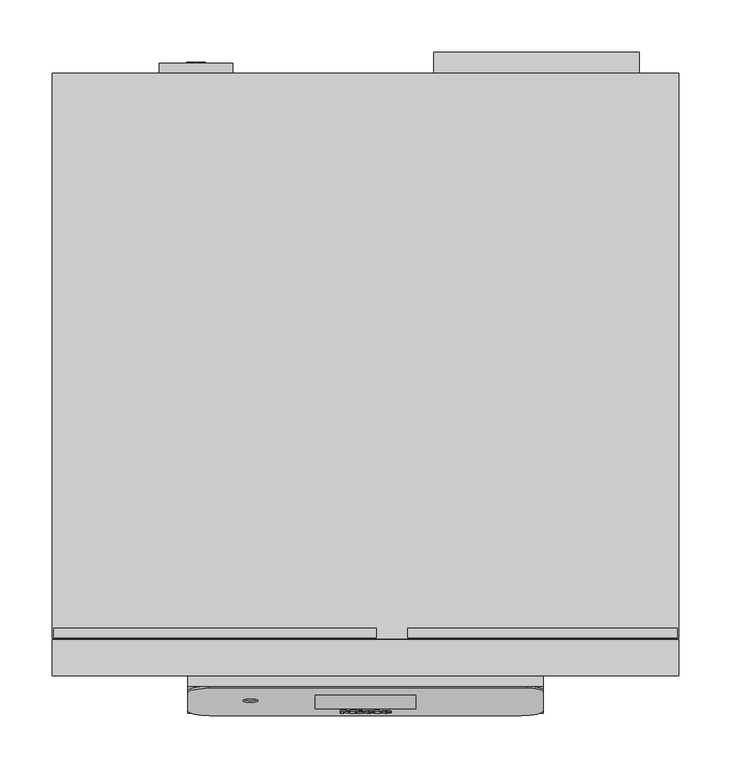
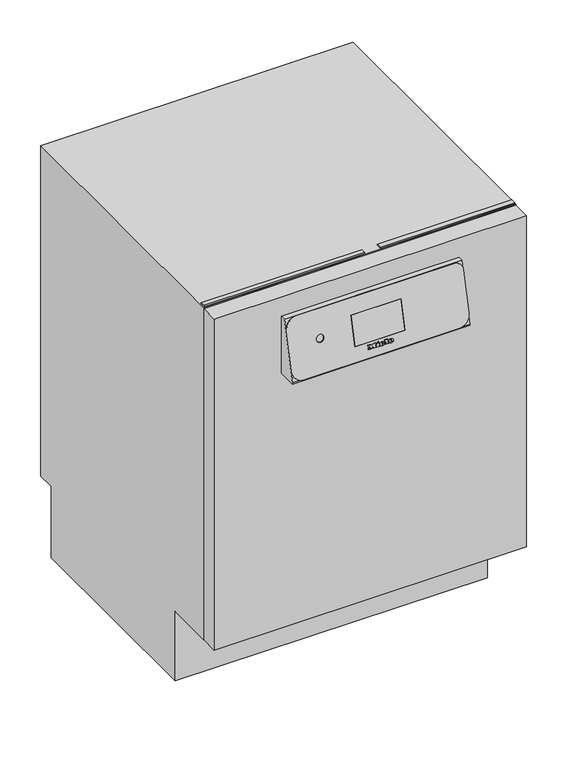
"""IFC4 building model written with IfcOpenShell, lengths in millimetres: proxy geometry, 12066500_SEE_PFD407UDOS_SST : 61040785_SEE_12066500_PFD407UDOS_SST."""

from ifc_helpers import new_model, si_unit, point, frame, frame_2d, origin, origin_with_axes, place, context, project, spatial, polyline, circle_curve, ellipse_curve, trimmed, segment, composite_curve, outline, extrude, source, transform, mapped, element, save
from ifc_brep_helpers import plane_surface, cylinder_surface, revolved_surface, extruded_surface, advanced_brep


def specialty_equipment_e1880b62(model_context):
    return source(origin(), model_context, "Body", "SolidModel", [
        advanced_brep(
        [(19.2098411, -35.3170778, 679.7116041), (19.2098411, -35.1353173, 680.4988951), (24.5618411, -35.1353173, 680.4988951), (15.2498411, -35.1353173, 680.4988951), (17.4498411, -35.743585, 677.8641985), (24.4258411, -35.3170778, 679.7116041), (22.0098411, -35.3170778, 679.7116041), (20.1058411, -35.5186339, 678.8385685), (19.2098411, -34.9049675, 681.4966501), (19.2098411, -34.7088101, 682.3463008), (20.5778411, -34.7088101, 682.3463008), (20.5778411, -34.9049675, 681.4966501), (19.2098411, -34.3427077, 679.4866531), (20.1058411, -34.5442639, 678.6136175), (22.0098411, -34.3427077, 679.4866531), (24.4258411, -34.3427077, 679.4866531), (17.4498411, -34.7692149, 677.6392474), (15.2498411, -34.1609473, 680.2739441), (24.5618411, -34.1609473, 680.2739441), (19.2098411, -34.1609473, 680.2739441), (19.2098411, -33.9305974, 681.271699), (20.5778411, -33.9305974, 681.271699), (20.5778411, -33.7344401, 682.1213497), (19.2098411, -33.7344401, 682.1213497)],
        [
            (0, 1),
            (1, 2),
            (2, 3, ellipse_curve(frame((19.9058411, -35.1353173, 680.4988951), z_axis=(0.0, -0.9743700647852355, 0.22495105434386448), x_axis=(-1.0, 0.0, 0.0)), 4.656, 3.848)),
            (3, 4, circle_curve(frame((18.3458847, -35.0741307, 680.7639238), z_axis=(0.0, -0.9743700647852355, 0.22495105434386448), x_axis=(0.0, -0.22495105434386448, -0.9743700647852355)), 3.1079688)),
            (4, 5, circle_curve(frame((19.8126347, -34.599034, 682.8217934), z_axis=(0.0, -0.9743700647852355, 0.22495105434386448), x_axis=(0.0, -0.22495105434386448, -0.9743700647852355)), 5.6098607)),
            (5, 6),
            (6, 7, circle_curve(frame((20.4968999, -35.1497142, 680.4365354), z_axis=(0.0, 0.9743700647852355, -0.22495105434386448), x_axis=(0.0, -0.22495105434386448, -0.9743700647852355)), 1.6859795)),
            (7, 0, circle_curve(frame((20.1058411, -35.3170778, 679.7116041), z_axis=(0.0, 0.9743700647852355, -0.22495105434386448), x_axis=(0.0, -0.22495105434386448, -0.9743700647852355)), 0.896)),
            (8, 9),
            (9, 10, circle_curve(frame((19.8938411, -34.7088101, 682.3463008), z_axis=(0.0, 0.9743700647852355, -0.22495105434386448), x_axis=(0.0, -0.22495105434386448, -0.9743700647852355)), 0.684)),
            (10, 11),
            (11, 8),
            (12, 13, circle_curve(frame((20.1058411, -34.3427077, 679.4866531), z_axis=(0.0, -0.9743700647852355, 0.22495105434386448), x_axis=(0.0, -0.22495105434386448, -0.9743700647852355)), 0.896)),
            (13, 14, circle_curve(frame((20.4968999, -34.1753441, 680.2115844), z_axis=(0.0, -0.9743700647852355, 0.22495105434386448), x_axis=(0.0, -0.22495105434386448, -0.9743700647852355)), 1.6859795)),
            (14, 15),
            (15, 16, circle_curve(frame((19.8126347, -33.624664, 682.5968423), z_axis=(0.0, 0.9743700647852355, -0.22495105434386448), x_axis=(0.0, -0.22495105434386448, -0.9743700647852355)), 5.6098607)),
            (16, 17, circle_curve(frame((18.3458847, -34.0997606, 680.5389727), z_axis=(0.0, 0.9743700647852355, -0.22495105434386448), x_axis=(0.0, -0.22495105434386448, -0.9743700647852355)), 3.1079688)),
            (17, 18, ellipse_curve(frame((19.9058411, -34.1609473, 680.2739441), z_axis=(0.0, 0.9743700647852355, -0.22495105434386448), x_axis=(-1.0, 0.0, 0.0)), 4.656, 3.848)),
            (18, 19),
            (19, 12),
            (20, 21),
            (21, 22),
            (22, 23, circle_curve(frame((19.8938411, -33.7344401, 682.1213497), z_axis=(0.0, -0.9743700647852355, 0.22495105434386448), x_axis=(0.0, -0.22495105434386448, -0.9743700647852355)), 0.684)),
            (23, 20),
            (0, 12),
            (19, 1),
            (18, 2),
            (5, 15),
            (14, 6),
            (17, 3),
            (13, 7),
            (16, 4),
            (8, 20),
            (23, 9),
            (22, 10),
            (21, 11),
        ],
        [
            plane_surface(frame((19.2098411, -35.1353173, 680.4988951), z_axis=(0.0, -0.9743700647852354, 0.22495105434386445), x_axis=(0.0, 0.22495105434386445, 0.9743700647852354))),
            plane_surface(frame((19.2098411, -34.1609473, 680.2739441), z_axis=(0.0, 0.9743700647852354, -0.22495105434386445), x_axis=(0.0, -0.22495105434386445, -0.9743700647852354))),
            plane_surface(frame((19.2098411, -35.3170778, 679.7116041), z_axis=(1.0, 0.0, 0.0), x_axis=(0.0, 0.9743700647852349, -0.22495105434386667))),
            plane_surface(frame((19.2098411, -35.1353173, 680.4988951), z_axis=(0.0, -0.22495105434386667, -0.9743700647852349), x_axis=(0.0, 0.9743700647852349, -0.22495105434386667))),
            plane_surface(frame((24.4258411, -35.3170778, 679.7116041), z_axis=(0.0, 0.22495105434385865, 0.9743700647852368), x_axis=(0.0, 0.9743700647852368, -0.22495105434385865))),
            extruded_surface(trimmed(ellipse_curve(frame((19.9058411, -33.1865772, 680.048993), z_axis=(0.0, -0.9743700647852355, 0.22495105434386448), x_axis=(-1.0, 0.0, 0.0)), 4.656, 3.848), [point((24.5618411, -33.1865772, 680.048993))], [point((15.2498411, -33.1865772, 680.048993))], True, "CARTESIAN"), (0.0, -0.9743700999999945, 0.2249510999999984), 1.0000000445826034),
            revolved_surface(polyline([(20.4968999, -34.55460696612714, 678.5688164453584), (20.4968999, -35.52897707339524, 678.7937675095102)]), (20.4968999, -34.1753441, 680.2115844), (0.0, 0.9743700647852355, -0.22495105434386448)),
            revolved_surface(polyline([(20.1058411, -34.544263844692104, 678.6136175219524), (20.1058411, -35.51863393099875, 678.8385685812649)]), (20.1058411, -34.3427077, 679.4866531), (0.0, 0.9743700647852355, -0.22495105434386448)),
            cylinder_surface(frame((18.3458847, -34.0997606, 680.5389727), z_axis=(0.0, -0.9743700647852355, 0.22495105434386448), x_axis=(0.0, -0.22495105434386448, -0.9743700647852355)), 3.1079688),
            cylinder_surface(frame((19.8126347, -33.624664, 682.5968423), z_axis=(0.0, -0.9743700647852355, 0.22495105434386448), x_axis=(0.0, -0.22495105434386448, -0.9743700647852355)), 5.6098607),
            plane_surface(frame((19.2098411, -34.9049675, 681.4966501), z_axis=(1.0, 0.0, 0.0), x_axis=(0.0, 0.9743700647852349, -0.22495105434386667))),
            revolved_surface(polyline([(19.8938411, -33.8883066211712, 681.4548805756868), (19.8938411, -34.8626766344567, 681.6798316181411)]), (19.8938411, -33.7344401, 682.1213497), (0.0, 0.9743700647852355, -0.22495105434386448)),
            plane_surface(frame((20.5778411, -34.7088101, 682.3463008), z_axis=(-1.0, 0.0, 0.0), x_axis=(0.0, 0.9743700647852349, -0.22495105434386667))),
            plane_surface(frame((20.5778411, -34.9049675, 681.4966501), z_axis=(0.0, 0.22495105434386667, 0.9743700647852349), x_axis=(0.0, 0.9743700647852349, -0.22495105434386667))),
        ],
        [
            (0, [[1, 2, 3, 4, 5, 6, 7, 8], [9, 10, 11, 12]]),
            (1, [[13, 14, 15, 16, 17, 18, 19, 20], [21, 22, 23, 24]]),
            (2, [[-1, 25, -20, 26]]),
            (3, [[-2, -26, -19, 27]]),
            (4, [[-6, 28, -15, 29]]),
            (5, [[-3, -27, -18, 30]]),
            (6, [[-7, -29, -14, 31]]),
            (7, [[-8, -31, -13, -25]]),
            (8, [[-4, -30, -17, 32]]),
            (9, [[-5, -32, -16, -28]]),
            (10, [[-9, 33, -24, 34]]),
            (11, [[-10, -34, -23, 35]]),
            (12, [[-11, -35, -22, 36]]),
            (13, [[-12, -36, -21, -33]]),
        ],
    ),
        advanced_brep(
        [(2.5138411, -35.3170778, 679.7116041), (2.5138411, -35.1353173, 680.4988951), (7.8658411, -35.1353173, 680.4988951), (-1.4461589, -35.1353173, 680.4988951), (0.7538411, -35.743585, 677.8641985), (7.7298411, -35.3170778, 679.7116041), (5.3138411, -35.3170778, 679.7116041), (3.4098411, -35.5186339, 678.8385685), (2.5138411, -34.9049675, 681.4966501), (2.5138411, -34.7088101, 682.3463008), (3.8818411, -34.7088101, 682.3463008), (3.8818411, -34.9049675, 681.4966501), (2.5138411, -34.3427077, 679.4866531), (3.4098411, -34.5442639, 678.6136175), (5.3138411, -34.3427077, 679.4866531), (7.7298411, -34.3427077, 679.4866531), (0.7538411, -34.7692149, 677.6392474), (-1.4461589, -34.1609473, 680.2739441), (7.8658411, -34.1609473, 680.2739441), (2.5138411, -34.1609473, 680.2739441), (2.5138411, -33.9305974, 681.271699), (3.8818411, -33.9305974, 681.271699), (3.8818411, -33.7344401, 682.1213497), (2.5138411, -33.7344401, 682.1213497)],
        [
            (0, 1),
            (1, 2),
            (2, 3, ellipse_curve(frame((3.2098411, -35.1353173, 680.4988951), z_axis=(0.0, -0.9743700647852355, 0.22495105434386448), x_axis=(-1.0, 0.0, 0.0)), 4.656, 3.848)),
            (3, 4, circle_curve(frame((1.6498847, -35.0741307, 680.7639238), z_axis=(0.0, -0.9743700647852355, 0.22495105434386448), x_axis=(0.0, -0.22495105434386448, -0.9743700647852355)), 3.1079688)),
            (4, 5, circle_curve(frame((3.1166347, -34.599034, 682.8217934), z_axis=(0.0, -0.9743700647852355, 0.22495105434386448), x_axis=(0.0, -0.22495105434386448, -0.9743700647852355)), 5.6098607)),
            (5, 6),
            (6, 7, circle_curve(frame((3.8008999, -35.1497142, 680.4365354), z_axis=(0.0, 0.9743700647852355, -0.22495105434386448), x_axis=(0.0, -0.22495105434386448, -0.9743700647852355)), 1.6859795)),
            (7, 0, circle_curve(frame((3.4098411, -35.3170778, 679.7116041), z_axis=(0.0, 0.9743700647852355, -0.22495105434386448), x_axis=(0.0, -0.22495105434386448, -0.9743700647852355)), 0.896)),
            (8, 9),
            (9, 10, circle_curve(frame((3.1978411, -34.7088101, 682.3463008), z_axis=(0.0, 0.9743700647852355, -0.22495105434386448), x_axis=(0.0, -0.22495105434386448, -0.9743700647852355)), 0.684)),
            (10, 11),
            (11, 8),
            (12, 13, circle_curve(frame((3.4098411, -34.3427077, 679.4866531), z_axis=(0.0, -0.9743700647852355, 0.22495105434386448), x_axis=(0.0, -0.22495105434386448, -0.9743700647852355)), 0.896)),
            (13, 14, circle_curve(frame((3.8008999, -34.1753441, 680.2115844), z_axis=(0.0, -0.9743700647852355, 0.22495105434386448), x_axis=(0.0, -0.22495105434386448, -0.9743700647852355)), 1.6859795)),
            (14, 15),
            (15, 16, circle_curve(frame((3.1166347, -33.624664, 682.5968423), z_axis=(0.0, 0.9743700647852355, -0.22495105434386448), x_axis=(0.0, -0.22495105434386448, -0.9743700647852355)), 5.6098607)),
            (16, 17, circle_curve(frame((1.6498847, -34.0997606, 680.5389727), z_axis=(0.0, 0.9743700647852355, -0.22495105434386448), x_axis=(0.0, -0.22495105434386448, -0.9743700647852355)), 3.1079688)),
            (17, 18, ellipse_curve(frame((3.2098411, -34.1609473, 680.2739441), z_axis=(0.0, 0.9743700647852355, -0.22495105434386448), x_axis=(-1.0, 0.0, 0.0)), 4.656, 3.848)),
            (18, 19),
            (19, 12),
            (20, 21),
            (21, 22),
            (22, 23, circle_curve(frame((3.1978411, -33.7344401, 682.1213497), z_axis=(0.0, -0.9743700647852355, 0.22495105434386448), x_axis=(0.0, -0.22495105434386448, -0.9743700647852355)), 0.684)),
            (23, 20),
            (0, 12),
            (19, 1),
            (18, 2),
            (5, 15),
            (14, 6),
            (17, 3),
            (13, 7),
            (16, 4),
            (8, 20),
            (23, 9),
            (22, 10),
            (21, 11),
        ],
        [
            plane_surface(frame((2.5138411, -35.1353173, 680.4988951), z_axis=(0.0, -0.9743700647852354, 0.22495105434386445), x_axis=(0.0, 0.22495105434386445, 0.9743700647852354))),
            plane_surface(frame((2.5138411, -34.1609473, 680.2739441), z_axis=(0.0, 0.9743700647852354, -0.22495105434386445), x_axis=(0.0, -0.22495105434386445, -0.9743700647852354))),
            plane_surface(frame((2.5138411, -35.3170778, 679.7116041), z_axis=(1.0000000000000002, 0.0, 0.0), x_axis=(0.0, 0.9743700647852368, -0.22495105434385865))),
            plane_surface(frame((2.5138411, -35.1353173, 680.4988951), z_axis=(0.0, -0.22495105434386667, -0.9743700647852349), x_axis=(0.0, 0.9743700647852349, -0.22495105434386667))),
            plane_surface(frame((7.7298411, -35.3170778, 679.7116041), z_axis=(0.0, 0.22495105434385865, 0.9743700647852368), x_axis=(0.0, 0.9743700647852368, -0.22495105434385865))),
            extruded_surface(trimmed(ellipse_curve(frame((3.2098411, -33.1865772, 680.048993), z_axis=(0.0, -0.9743700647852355, 0.22495105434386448), x_axis=(-1.0, 0.0, 0.0)), 4.656, 3.848), [point((7.8658411, -33.1865772, 680.048993))], [point((-1.4461589, -33.1865772, 680.048993))], True, "CARTESIAN"), (0.0, -0.9743700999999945, 0.2249510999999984), 1.0000000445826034),
            revolved_surface(polyline([(3.8008999, -34.55460696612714, 678.5688164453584), (3.8008999, -35.52897707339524, 678.7937675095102)]), (3.8008999, -34.1753441, 680.2115844), (0.0, 0.9743700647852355, -0.22495105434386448)),
            revolved_surface(polyline([(3.4098411, -34.544263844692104, 678.6136175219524), (3.4098411, -35.51863393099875, 678.8385685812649)]), (3.4098411, -34.3427077, 679.4866531), (0.0, 0.9743700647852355, -0.22495105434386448)),
            cylinder_surface(frame((1.6498847, -34.0997606, 680.5389727), z_axis=(0.0, -0.9743700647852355, 0.22495105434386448), x_axis=(0.0, -0.22495105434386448, -0.9743700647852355)), 3.1079688),
            cylinder_surface(frame((3.1166347, -33.624664, 682.5968423), z_axis=(0.0, -0.9743700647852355, 0.22495105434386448), x_axis=(0.0, -0.22495105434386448, -0.9743700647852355)), 5.6098607),
            plane_surface(frame((2.5138411, -34.9049675, 681.4966501), z_axis=(1.0, 0.0, 0.0), x_axis=(0.0, 0.9743700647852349, -0.22495105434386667))),
            revolved_surface(polyline([(3.1978411, -33.8883066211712, 681.4548805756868), (3.1978411, -34.8626766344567, 681.6798316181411)]), (3.1978411, -33.7344401, 682.1213497), (0.0, 0.9743700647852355, -0.22495105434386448)),
            plane_surface(frame((3.8818411, -34.7088101, 682.3463008), z_axis=(-1.0, 0.0, 0.0), x_axis=(0.0, 0.9743700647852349, -0.22495105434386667))),
            plane_surface(frame((3.8818411, -34.9049675, 681.4966501), z_axis=(0.0, 0.22495105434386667, 0.9743700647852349), x_axis=(0.0, 0.9743700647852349, -0.22495105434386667))),
        ],
        [
            (0, [[1, 2, 3, 4, 5, 6, 7, 8], [9, 10, 11, 12]]),
            (1, [[13, 14, 15, 16, 17, 18, 19, 20], [21, 22, 23, 24]]),
            (2, [[-1, 25, -20, 26]]),
            (3, [[-2, -26, -19, 27]]),
            (4, [[-6, 28, -15, 29]]),
            (5, [[-3, -27, -18, 30]]),
            (6, [[-7, -29, -14, 31]]),
            (7, [[-8, -31, -13, -25]]),
            (8, [[-4, -30, -17, 32]]),
            (9, [[-5, -32, -16, -28]]),
            (10, [[-9, 33, -24, 34]]),
            (11, [[-10, -34, -23, 35]]),
            (12, [[-11, -35, -22, 36]]),
            (13, [[-12, -36, -21, -33]]),
        ],
    ),
        extrude(outline(polyline([(0.0, 0.0), (-0.0109087, -2.9993294), (-1.4390415, -2.9920868), (-1.4315307, 0.0), (0.0, 0.0)])), frame((-6.2301589, -33.0757834, 684.9743053), z_axis=(0.0, -0.9743700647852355, 0.2249510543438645), x_axis=(-0.42472021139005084, 0.20365373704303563, 0.8821212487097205)), (0.0, 0.0, 1.0), 1.0),
        extrude(outline(polyline([(-0.4933908, 2.4141097), (-2.7800844, -2.4601583), (-7.0459742, -0.4588767), (-7.4401146, -1.2990179), (-8.6568709, -0.728194), (-5.9760369, 4.9862153), (-4.7592806, 4.4153913), (-5.1636142, 3.5535222), (-2.1941493, 2.16044), (-1.7898157, 3.022309), (-0.4933908, 2.4141097)])), frame((-6.2301589, -33.0757834, 684.9743053), z_axis=(0.0, -0.9743700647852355, 0.2249510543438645), x_axis=(-0.42472021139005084, 0.20365373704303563, 0.8821212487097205)), (0.0, 0.0, 1.0), 1.0),
        extrude(outline(polyline([(0.0, 0.0), (0.0, -1.3039999), (-5.504, -1.3039999), (-5.504, 5.352), (-6.488, 5.352), (-6.488, 6.696), (0.0, 6.696), (0.0, 5.352), (-0.96, 5.352), (-0.96, 0.0), (0.0, 0.0)])), frame((8.3138411, -33.2629427, 684.1636294), z_axis=(0.0, -0.9743700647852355, 0.22495105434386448), x_axis=(-1.0, 0.0, 0.0)), (0.0, 0.0, 1.0), 1.0),
        extrude(outline(polyline([(0.0, 0.0), (0.0, -1.3039999), (-5.576, -1.3039999), (-7.92, 1.6960001), (-10.256, -1.3039999), (-15.128, -1.3039999), (-15.128, 0.0), (-14.112, 0.0), (-14.112, 5.352), (-15.128, 5.352), (-15.128, 6.696), (-8.744, 6.696), (-8.744, 5.352), (-9.728, 5.352), (-9.728, 1.8807777), (-6.136, 6.696), (-2.56, 1.9488752), (-2.56, 5.352), (-3.52, 5.352), (-3.52, 6.696), (0.0, 6.696), (0.0, 5.352), (-0.968, 5.352), (-0.968, 0.0), (0.0, 0.0)])), frame((-24.1501589, -33.2629427, 684.1636294), z_axis=(0.0, -0.9743700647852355, 0.22495105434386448), x_axis=(-1.0, 0.0, 0.0)), (0.0, 0.0, 1.0), 1.0),
        extrude(outline(polyline([(-0.1038681, 775.5857792), (-0.1038681, 660.0), (-36.1981904, 660.0), (-36.1981904, 662.5588517), (-10.1038681, 775.5857792), (-0.1038681, 775.5857792)])), frame((-169.8831565, 0.0, 0.0), z_axis=(1.0, 0.0, 0.0), x_axis=(0.0, 1.0, 0.0)), (0.0, 0.0, 1.0), 339.766313),
        extrude(outline(polyline([(299.0, 34.0), (299.0, 0.0), (-299.0, 0.0), (-299.0, 34.0), (299.0, 34.0)])), frame((0.0, 0.0, 145.0), z_axis=(0.0, 0.0, 1.0), x_axis=(1.0, 0.0, 0.0)), (0.0, 0.0, 1.0), 670.0),
        advanced_brep(
        [(153.3281651, -12.0526082, 776.0356813), (-148.8831565, -12.0526082, 776.0356813), (-169.8831565, -16.7765804, 755.57391), (-169.8831565, -33.4229584, 683.4705252), (-148.8831565, -38.1469305, 663.0087538), (148.8831565, -38.1469305, 663.0087538), (169.8831565, -33.4229584, 683.4705252), (169.8831565, -15.776671, 759.9049933), (-102.8831565, -24.0088923, 724.2473253), (-116.8831565, -24.0088923, 724.2473253), (48.0, -18.9868916, 746.0), (48.0, -31.9155103, 690.0), (-48.0, -31.9155103, 690.0), (-48.0, -18.9868916, 746.0), (153.3281651, -10.1038681, 775.5857792), (169.8831565, -13.8279308, 759.4550912), (169.8831565, -31.4742182, 683.0206231), (148.8831565, -36.1981904, 662.5588517), (-148.8831565, -36.1981904, 662.5588517), (-169.8831565, -31.4742182, 683.0206231), (-169.8831565, -14.8278402, 755.1240079), (-148.8831565, -10.1038681, 775.5857792), (48.0, -29.8629021, 690.0), (48.0, -16.9342834, 746.0), (-48.0, -16.9342834, 746.0), (-48.0, -29.8629021, 690.0), (-116.8831565, -22.4281396, 723.8823798), (-102.8831565, -22.4281396, 723.8823798)],
        [
            (0, 1),
            (1, 2, circle_curve(frame((-148.8831565, -16.7765804, 755.57391), z_axis=(0.0, -0.9743700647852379, 0.22495105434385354), x_axis=(1.0, 0.0, 0.0)), 21.0)),
            (2, 3),
            (3, 4, circle_curve(frame((-148.8831565, -33.4229584, 683.4705252), z_axis=(0.0, -0.9743700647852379, 0.22495105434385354), x_axis=(1.0, 0.0, 0.0)), 21.0)),
            (4, 5),
            (5, 6, circle_curve(frame((148.8831565, -33.4229584, 683.4705252), z_axis=(0.0, -0.9743700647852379, 0.22495105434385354), x_axis=(1.0, 0.0, 0.0)), 21.0)),
            (6, 7),
            (7, 0, circle_curve(frame((153.3281651, -15.776671, 759.9049933), z_axis=(0.0, -0.9743700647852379, 0.22495105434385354), x_axis=(1.0, 0.0, 0.0)), 16.5549913)),
            (8, 9, circle_curve(frame((-109.8831565, -24.0088923, 724.2473253), z_axis=(0.0, 0.9743700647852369, -0.22495105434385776), x_axis=(1.0, 0.0, 0.0)), 7.0)),
            (9, 8, circle_curve(frame((-109.8831565, -24.0088923, 724.2473253), z_axis=(0.0, 0.9743700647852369, -0.22495105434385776), x_axis=(1.0, 0.0, 0.0)), 7.0)),
            (10, 11),
            (11, 12),
            (12, 13),
            (13, 10),
            (14, 15, circle_curve(frame((153.3281651, -13.8279308, 759.4550912), z_axis=(0.0, 0.9743700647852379, -0.22495105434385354), x_axis=(1.0, 0.0, 0.0)), 16.5549913)),
            (15, 16),
            (16, 17, circle_curve(frame((148.8831565, -31.4742182, 683.0206231), z_axis=(0.0, 0.9743700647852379, -0.22495105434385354), x_axis=(1.0, 0.0, 0.0)), 21.0)),
            (17, 18),
            (18, 19, circle_curve(frame((-148.8831565, -31.4742182, 683.0206231), z_axis=(0.0, 0.9743700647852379, -0.22495105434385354), x_axis=(1.0, 0.0, 0.0)), 21.0)),
            (19, 20),
            (20, 21, circle_curve(frame((-148.8831565, -14.8278402, 755.1240079), z_axis=(0.0, 0.9743700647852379, -0.22495105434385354), x_axis=(1.0, 0.0, 0.0)), 21.0)),
            (21, 14),
            (22, 23),
            (23, 24),
            (24, 25),
            (25, 22),
            (0, 14),
            (21, 1),
            (20, 2),
            (19, 3),
            (18, 4),
            (17, 5),
            (16, 6),
            (15, 7),
            (26, 27, circle_curve(frame((-109.8831565, -22.4281396, 723.8823798), z_axis=(0.0, -0.9743700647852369, 0.22495105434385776), x_axis=(1.0, 0.0, 0.0)), 7.0)),
            (27, 26, circle_curve(frame((-109.8831565, -22.4281396, 723.8823798), z_axis=(0.0, -0.9743700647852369, 0.22495105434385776), x_axis=(1.0, 0.0, 0.0)), 7.0)),
            (26, 9),
            (8, 27),
            (12, 25),
            (24, 13),
            (10, 23),
            (22, 11),
        ],
        [
            plane_surface(frame((-166.8819453, -12.0526082, 776.0356813), z_axis=(0.0, -0.9743700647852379, 0.22495105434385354), x_axis=(-1.0, 0.0, 0.0))),
            plane_surface(frame((-166.8819453, -10.1038681, 775.5857792), z_axis=(0.0, 0.9743700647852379, -0.22495105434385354), x_axis=(1.0, 0.0, 0.0))),
            plane_surface(frame((153.3281651, -12.0526082, 776.0356813), z_axis=(0.0, 0.22495105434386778, 0.9743700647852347), x_axis=(0.0, 0.9743700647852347, -0.22495105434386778))),
            cylinder_surface(frame((-148.8831565, -14.8278402, 755.1240079), z_axis=(0.0, -0.9743700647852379, 0.22495105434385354), x_axis=(1.0, 0.0, 0.0)), 21.0),
            plane_surface(frame((-169.8831565, -16.7765804, 755.57391), z_axis=(-1.0, 0.0, 0.0), x_axis=(0.0, 0.9743700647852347, -0.22495105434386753))),
            cylinder_surface(frame((-148.8831565, -31.4742182, 683.0206231), z_axis=(0.0, -0.9743700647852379, 0.22495105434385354), x_axis=(1.0, 0.0, 0.0)), 21.0),
            plane_surface(frame((-148.8831565, -38.1469305, 663.0087538), z_axis=(0.0, -0.22495105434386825, -0.9743700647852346), x_axis=(0.0, 0.9743700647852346, -0.22495105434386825))),
            cylinder_surface(frame((148.8831565, -31.4742182, 683.0206231), z_axis=(0.0, -0.9743700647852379, 0.22495105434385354), x_axis=(1.0, 0.0, 0.0)), 21.0),
            plane_surface(frame((169.8831565, -33.4229584, 683.4705252), z_axis=(1.0000000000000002, 0.0, 0.0), x_axis=(0.0, 0.9743700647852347, -0.22495105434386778))),
            cylinder_surface(frame((153.3281651, -13.8279308, 759.4550912), z_axis=(0.0, -0.9743700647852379, 0.22495105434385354), x_axis=(1.0, 0.0, 0.0)), 16.5549913),
            plane_surface(frame((-102.8831565, -22.4281396, 723.8823798), z_axis=(0.0, -0.9743700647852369, 0.2249510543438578), x_axis=(0.0, -0.2249510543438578, -0.9743700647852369))),
            revolved_surface(polyline([(-102.8831565, -24.008892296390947, 724.2473253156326), (-102.8831565, -22.4281396, 723.8823798)]), (-109.8831565, -22.4281396, 723.8823798), (0.0, -0.9743700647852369, 0.22495105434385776)),
            plane_surface(frame((-48.0, -31.9155103, 690.0), z_axis=(1.0, 0.0, 0.0), x_axis=(0.0, -1.0, 0.0))),
            plane_surface(frame((48.0, -31.9155103, 690.0), z_axis=(-1.0, 0.0, 0.0), x_axis=(0.0, 1.0, 0.0))),
            plane_surface(frame((48.0, -31.9155103, 690.0), z_axis=(0.0, 0.0, 1.0), x_axis=(-1.0, 0.0, 0.0))),
            plane_surface(frame((48.0, -16.9342834, 746.0), z_axis=(0.0, 0.0, -1.0), x_axis=(-1.0, 0.0, 0.0))),
        ],
        [
            (0, [[1, 2, 3, 4, 5, 6, 7, 8], [9, 10], [11, 12, 13, 14]]),
            (1, [[15, 16, 17, 18, 19, 20, 21, 22], [23, 24, 25, 26]]),
            (2, [[-1, 27, -22, 28]]),
            (3, [[-2, -28, -21, 29]]),
            (4, [[-3, -29, -20, 30]]),
            (5, [[-4, -30, -19, 31]]),
            (6, [[-5, -31, -18, 32]]),
            (7, [[-6, -32, -17, 33]]),
            (8, [[-7, -33, -16, 34]]),
            (9, [[-8, -34, -15, -27]]),
            (10, [[35, 36]]),
            (11, [[-35, 37, -9, 38]]),
            (11, [[-36, -38, -10, -37]]),
            (12, [[39, -25, 40, -13]]),
            (13, [[41, -23, 42, -11]]),
            (14, [[-42, -26, -39, -12]]),
            (15, [[-41, -14, -40, -24]]),
        ],
    ),
        extrude(outline(polyline([(-29.8629021, 690.0), (-31.9155103, 690.0), (-18.9868916, 746.0), (-16.9342834, 746.0), (-29.8629021, 690.0)])), frame((-48.0, 0.0, 0.0), z_axis=(1.0, 0.0, 0.0), x_axis=(0.0, 1.0, 0.0)), (0.0, 0.0, 1.0), 96.0),
        extrude(outline(polyline([(297.9027562, 45.259625), (297.9027562, 36.259625), (40.425123, 36.259625), (40.425123, 45.259625), (297.9027562, 45.259625)])), frame((0.0, 0.0, 817.0), z_axis=(0.0, 0.0, 1.0), x_axis=(1.0, 0.0, 0.0)), (0.0, 0.0, 1.0), 3.0),
        extrude(outline(polyline([(10.1158911, 45.259625), (10.1158911, 36.259625), (-297.5390632, 36.259625), (-297.5390632, 45.259625), (10.1158911, 45.259625)])), frame((0.0, 0.0, 817.0), z_axis=(0.0, 0.0, 1.0), x_axis=(1.0, 0.0, 0.0)), (0.0, 0.0, 1.0), 3.0),
        extrude(outline(polyline([(35.0, 817.0), (575.0, 817.0), (575.0, 148.0), (541.0, 148.0), (541.0, 4.2000122), (129.0, 4.2000122), (129.0, 145.0), (35.0, 145.0), (35.0, 817.0)])), frame((-299.0, 0.0, 0.0), z_axis=(1.0, 0.0, 0.0), x_axis=(0.0, 1.0, 0.0)), (0.0, 0.0, 1.0), 598.0),
        extrude(outline(polyline([(-172.0947306, 541.0), (-252.9150967, 541.0), (-252.9150967, 546.8796322), (-172.0947306, 546.8796322), (-172.0947306, 541.0)])), frame((0.0, 0.0, 83.2113443), z_axis=(0.0, 0.0, 1.0), x_axis=(1.0, 0.0, 0.0)), (0.0, 0.0, 1.0), 9.5402229),
        extrude(outline(polyline([(-172.0947306, 541.0), (-252.9150967, 541.0), (-252.9150967, 546.8796322), (-172.0947306, 546.8796322), (-172.0947306, 541.0)])), frame((0.0, 0.0, 49.1113767), z_axis=(0.0, 0.0, 1.0), x_axis=(1.0, 0.0, 0.0)), (0.0, 0.0, 1.0), 11.5700235),
        extrude(outline(polyline([(-172.0947306, 541.0), (-252.9150967, 541.0), (-252.9150967, 546.8796322), (-172.0947306, 546.8796322), (-172.0947306, 541.0)])), frame((0.0, 0.0, 67.2113431), z_axis=(0.0, 0.0, 1.0), x_axis=(1.0, 0.0, 0.0)), (0.0, 0.0, 1.0), 9.5826234),
        extrude(outline(polyline([(48.0999756, 96.1730873), (58.1456066, 98.9125818), (58.1456066, 97.6176372), (51.5433511, 96.028387), (49.5052848, 95.5378777), (51.3079066, 95.0130327), (58.1456066, 93.0215648), (58.1456066, 91.1551768), (53.1890099, 89.7081743), (49.5052848, 88.6315064), (51.4844899, 88.1557123), (58.1456066, 86.5517468), (58.1456066, 85.2568022), (48.0999756, 87.9987493), (48.0999756, 89.3402923), (55.850023, 91.7486931), (56.931596, 92.084692), (55.6292938, 92.4623842), (48.0999756, 94.6574134), (48.0999756, 96.1730873)])), frame((0.0, 571.0, 0.0), z_axis=(0.0, 1.0, 0.0), x_axis=(0.0, 0.0, 1.0)), (0.0, 0.0, 1.0), 1.0),
        extrude(outline(polyline([(48.0999756, 82.2033816), (58.1456066, 84.9428762), (58.1456066, 83.6479316), (51.5433511, 82.0586814), (49.5052848, 81.568172), (51.3079066, 81.0433271), (58.1456066, 79.0518592), (58.1456066, 77.1854712), (53.1890099, 75.7384687), (49.5052848, 74.6618007), (51.4844899, 74.1860067), (58.1456066, 72.5820412), (58.1456066, 71.2870966), (48.0999756, 74.0290437), (48.0999756, 75.3705867), (55.850023, 77.7789875), (56.931596, 78.1149864), (55.6292938, 78.4926786), (48.0999756, 80.6877078), (48.0999756, 82.2033816)])), frame((0.0, 571.0, 0.0), z_axis=(0.0, 1.0, 0.0), x_axis=(0.0, 0.0, 1.0)), (0.0, 0.0, 1.0), 1.0),
        extrude(outline(polyline([(56.599963, 201.5578418), (66.645594, 204.2973364), (66.645594, 203.0023917), (60.0433385, 201.4131415), (58.0052722, 200.9226322), (59.807894, 200.3977872), (66.645594, 198.4063193), (66.645594, 196.5399313), (61.6889973, 195.0929288), (58.0052722, 194.0162609), (59.9844773, 193.5404668), (66.645594, 191.9365013), (66.645594, 190.6415567), (56.599963, 193.3835038), (56.599963, 194.7250468), (64.3500104, 197.1334476), (65.4315834, 197.4694465), (64.1292812, 197.8471387), (56.599963, 200.0421679), (56.599963, 201.5578418)])), frame((0.0, 571.0, 0.0), z_axis=(0.0, 1.0, 0.0), x_axis=(0.0, 0.0, 1.0)), (0.0, 0.0, 1.0), 1.0),
        extrude(outline(polyline([(56.599963, 212.6163745), (66.645594, 212.6163745), (66.645594, 211.3606707), (61.728238, 211.3606707), (66.645594, 206.2103227), (66.645594, 204.4542993), (62.5155055, 208.7781391), (56.599963, 204.2973364), (56.599963, 205.8326305), (61.6669243, 209.6684135), (60.0531487, 211.3606707), (56.599963, 211.3606707), (56.599963, 212.6163745)])), frame((0.0, 571.0, 0.0), z_axis=(0.0, 1.0, 0.0), x_axis=(0.0, 0.0, 1.0)), (0.0, 0.0, 1.0), 1.0),
        extrude(outline(composite_curve([segment(trimmed(circle_curve(frame_2d((61.599963, 202.0998546)), 8.0), [point((61.599963, 194.0998546))], [point((61.599963, 210.0998546))], False, "CARTESIAN"), True, "CONTINUOUS"), segment(trimmed(circle_curve(frame_2d((61.599963, 202.0998546)), 8.0), [point((61.599963, 210.0998546))], [point((61.599963, 194.0998546))], False, "CARTESIAN"), True, "CONTINUOUS")], self_intersect=False)), frame((0.0, 541.0, 0.0), z_axis=(0.0, 1.0, 0.0), x_axis=(0.0, 0.0, 1.0)), (0.0, 0.0, 1.0), 30.0),
        extrude(outline(polyline([(61.1702758, 140.618963), (71.2159068, 140.618963), (71.2159068, 133.3986657), (69.960203, 133.3986657), (69.960203, 139.3632591), (66.9779062, 139.3632591), (66.9779062, 133.7125916), (65.7222024, 133.7125916), (65.7222024, 139.3632591), (62.4259797, 139.3632591), (62.4259797, 133.2417027), (61.1702758, 133.2417027), (61.1702758, 140.618963)])), frame((0.0, 571.0, 0.0), z_axis=(0.0, 1.0, 0.0), x_axis=(0.0, 0.0, 1.0)), (0.0, 0.0, 1.0), 1.0),
        extrude(outline(polyline([(61.1702758, 131.3581469), (71.2159068, 131.3581469), (71.2159068, 130.102443), (62.4259797, 130.102443), (62.4259797, 125.0796275), (61.1702758, 125.0796275), (61.1702758, 131.3581469)])), frame((0.0, 571.0, 0.0), z_axis=(0.0, 1.0, 0.0), x_axis=(0.0, 0.0, 1.0)), (0.0, 0.0, 1.0), 1.0),
        extrude(outline(polyline([(118.1398187, 18.2077062), (128.1854497, 18.2077062), (128.1854497, 14.7422578), (128.0407495, 12.9494462), (127.3221533, 11.4730132), (125.6053707, 10.283528), (123.2165903, 9.888668), (121.1895605, 10.1559956), (119.7266164, 10.8427087), (118.8154953, 11.7599611), (118.311497, 12.9604827), (118.1398187, 14.5754846), (118.1398187, 18.2077062)]), holes=[polyline([(119.3955226, 16.9520023), (119.3955226, 14.7299951), (119.5770111, 13.1137669), (120.0895933, 12.1817991), (121.3367133, 11.4178309), (123.2362106, 11.1443719), (125.6151809, 11.6802533), (126.728637, 12.9837819), (126.9297459, 14.7643307), (126.9297459, 16.9520023), (119.3955226, 16.9520023)])]), frame((0.0, 571.0, 0.0), z_axis=(0.0, 1.0, 0.0), x_axis=(0.0, 0.0, 1.0)), (0.0, 0.0, 1.0), 1.0),
        extrude(outline(polyline([(121.5930044, 8.6329642), (121.5930044, 7.3772603), (120.3360742, 6.9725901), (119.5414491, 5.9842138), (119.2385596, 4.4783502), (119.4678727, 3.1662377), (120.0981772, 2.3188828), (120.940627, 2.0405188), (121.7242156, 2.2489853), (122.2944327, 3.1024715), (122.7739056, 4.930845), (123.3931736, 6.8990137), (124.3275939, 7.9670977), (125.5759401, 8.3190382), (126.9971909, 7.8837112), (128.0002825, 6.6120657), (128.3424127, 4.7505828), (127.9843409, 2.7640201), (126.9321984, 1.4396449), (125.360116, 0.9417779), (125.360116, 2.1974818), (126.6501555, 2.9087203), (127.0867088, 4.7015319), (126.6550606, 6.4992486), (125.6127283, 7.0633343), (124.7420743, 6.6635692), (124.0406459, 4.6132402), (123.4103414, 2.391233), (122.3925346, 1.1759961), (120.9725101, 0.7848149), (119.4703253, 1.2348572), (118.3740369, 2.5298019), (117.9828557, 4.4292992), (118.4046938, 6.6721531), (119.6751129, 8.0909513), (121.5930044, 8.6329642)])), frame((0.0, 571.0, 0.0), z_axis=(0.0, 1.0, 0.0), x_axis=(0.0, 0.0, 1.0)), (0.0, 0.0, 1.0), 1.0),
        extrude(outline(composite_curve([segment(trimmed(circle_curve(frame_2d((126.8499756, 10.1811127)), 2.9851521), [point((126.8499756, 7.1959606))], [point((126.8499756, 13.1662647))], False, "CARTESIAN"), True, "CONTINUOUS"), segment(trimmed(circle_curve(frame_2d((126.8499756, 10.1811127)), 2.9851521), [point((126.8499756, 13.1662647))], [point((126.8499756, 7.1959606))], False, "CARTESIAN"), True, "CONTINUOUS")], self_intersect=False)), frame((0.0, 541.0, 0.0), z_axis=(0.0, 1.0, 0.0), x_axis=(0.0, 0.0, 1.0)), (0.0, 0.0, 1.0), 30.0),
        extrude(outline(composite_curve([segment(trimmed(circle_curve(frame_2d((117.0999756, 10.1811127)), 3.0), [point((117.0999756, 7.1811127))], [point((117.0999756, 13.1811127))], False, "CARTESIAN"), True, "CONTINUOUS"), segment(trimmed(circle_curve(frame_2d((117.0999756, 10.1811127)), 3.0), [point((117.0999756, 13.1811127))], [point((117.0999756, 7.1811127))], False, "CARTESIAN"), True, "CONTINUOUS")], self_intersect=False)), frame((0.0, 541.0, 0.0), z_axis=(0.0, 1.0, 0.0), x_axis=(0.0, 0.0, 1.0)), (0.0, 0.0, 1.0), 30.0),
        extrude(outline(composite_curve([segment(trimmed(circle_curve(frame_2d((107.3499443, 10.1811127)), 3.0), [point((107.3499443, 7.1811127))], [point((107.3499443, 13.1811127))], False, "CARTESIAN"), True, "CONTINUOUS"), segment(trimmed(circle_curve(frame_2d((107.3499443, 10.1811127)), 3.0), [point((107.3499443, 13.1811127))], [point((107.3499443, 7.1811127))], False, "CARTESIAN"), True, "CONTINUOUS")], self_intersect=False)), frame((0.0, 541.0, 0.0), z_axis=(0.0, 1.0, 0.0), x_axis=(0.0, 0.0, 1.0)), (0.0, 0.0, 1.0), 30.0),
        extrude(outline(composite_curve([segment(trimmed(circle_curve(frame_2d((136.5999756, 10.1811127)), 3.0), [point((136.5999756, 7.1811127))], [point((136.5999756, 13.1811127))], False, "CARTESIAN"), True, "CONTINUOUS"), segment(trimmed(circle_curve(frame_2d((136.5999756, 10.1811127)), 3.0), [point((136.5999756, 13.1811127))], [point((136.5999756, 7.1811127))], False, "CARTESIAN"), True, "CONTINUOUS")], self_intersect=False)), frame((0.0, 541.0, 0.0), z_axis=(0.0, 1.0, 0.0), x_axis=(0.0, 0.0, 1.0)), (0.0, 0.0, 1.0), 30.0),
        extrude(outline(polyline([(99.6239875, 19.6811122), (148.0, 19.6811122), (148.0, 1.1811127), (99.6239875, 1.1811127), (99.6239875, 19.6811122)]), holes=[polyline([(100.6239875, 18.6811122), (100.6239875, 2.1811127), (147.0, 2.1811127), (147.0, 18.6811122), (100.6239875, 18.6811122)])]), frame((0.0, 541.0, 0.0), z_axis=(0.0, 1.0, 0.0), x_axis=(0.0, 0.0, 1.0)), (0.0, 0.0, 1.0), 1.0),
        extrude(outline(polyline([(118.1398187, -7.1235653), (128.1854497, -7.1235653), (128.1854497, -10.5890137), (128.0407495, -12.3818253), (127.3221533, -13.8582584), (125.6053707, -15.0477435), (123.2165903, -15.4426035), (121.1895605, -15.1752759), (119.7266164, -14.4885629), (118.8154953, -13.5713104), (118.311497, -12.3707889), (118.1398187, -10.7557869), (118.1398187, -7.1235653)]), holes=[polyline([(119.3955226, -8.3792692), (119.3955226, -10.6012765), (119.5770111, -12.2175047), (120.0895933, -13.1494724), (121.3367133, -13.9134407), (123.2362106, -14.1868996), (125.6151809, -13.6510182), (126.728637, -12.3474897), (126.9297459, -10.5669408), (126.9297459, -8.3792692), (119.3955226, -8.3792692)])]), frame((0.0, 571.0, 0.0), z_axis=(0.0, 1.0, 0.0), x_axis=(0.0, 0.0, 1.0)), (0.0, 0.0, 1.0), 1.0),
        extrude(outline(polyline([(121.5930044, -16.6983074), (121.5930044, -17.9540113), (120.3360742, -18.3586815), (119.5414491, -19.3470578), (119.2385596, -20.8529214), (119.4678727, -22.1650338), (120.0981772, -23.0123887), (120.940627, -23.2907528), (121.7242156, -23.0822863), (122.2944327, -22.2288001), (122.7739056, -20.4004265), (123.3931736, -18.4322579), (124.3275939, -17.3641738), (125.5759401, -17.0122334), (126.9971909, -17.4475604), (128.0002825, -18.7192058), (128.3424127, -20.5806887), (127.9843409, -22.5672515), (126.9321984, -23.8916267), (125.360116, -24.3894936), (125.360116, -23.1337898), (126.6501555, -22.4225512), (127.0867088, -20.6297397), (126.6550606, -18.832023), (125.6127283, -18.2679372), (124.7420743, -18.6677023), (124.0406459, -20.7180313), (123.4103414, -22.9400386), (122.3925346, -24.1552754), (120.9725101, -24.5464566), (119.4703253, -24.0964143), (118.3740369, -22.8014697), (117.9828557, -20.9019723), (118.4046938, -18.6591184), (119.6751129, -17.2403202), (121.5930044, -16.6983074)])), frame((0.0, 571.0, 0.0), z_axis=(0.0, 1.0, 0.0), x_axis=(0.0, 0.0, 1.0)), (0.0, 0.0, 1.0), 1.0),
        extrude(outline(composite_curve([segment(trimmed(circle_curve(frame_2d((126.8499756, -15.1501589)), 2.9851521), [point((126.8499756, -18.135311))], [point((126.8499756, -12.1650068))], False, "CARTESIAN"), True, "CONTINUOUS"), segment(trimmed(circle_curve(frame_2d((126.8499756, -15.1501589)), 2.9851521), [point((126.8499756, -12.1650068))], [point((126.8499756, -18.135311))], False, "CARTESIAN"), True, "CONTINUOUS")], self_intersect=False)), frame((0.0, 541.0, 0.0), z_axis=(0.0, 1.0, 0.0), x_axis=(0.0, 0.0, 1.0)), (0.0, 0.0, 1.0), 30.0),
        extrude(outline(composite_curve([segment(trimmed(circle_curve(frame_2d((117.0999756, -15.1501589)), 3.0), [point((117.0999756, -18.1501589))], [point((117.0999756, -12.1501589))], False, "CARTESIAN"), True, "CONTINUOUS"), segment(trimmed(circle_curve(frame_2d((117.0999756, -15.1501589)), 3.0), [point((117.0999756, -12.1501589))], [point((117.0999756, -18.1501589))], False, "CARTESIAN"), True, "CONTINUOUS")], self_intersect=False)), frame((0.0, 541.0, 0.0), z_axis=(0.0, 1.0, 0.0), x_axis=(0.0, 0.0, 1.0)), (0.0, 0.0, 1.0), 30.0),
        extrude(outline(composite_curve([segment(trimmed(circle_curve(frame_2d((107.3499443, -15.1501589)), 3.0), [point((107.3499443, -18.1501589))], [point((107.3499443, -12.1501589))], False, "CARTESIAN"), True, "CONTINUOUS"), segment(trimmed(circle_curve(frame_2d((107.3499443, -15.1501589)), 3.0), [point((107.3499443, -12.1501589))], [point((107.3499443, -18.1501589))], False, "CARTESIAN"), True, "CONTINUOUS")], self_intersect=False)), frame((0.0, 541.0, 0.0), z_axis=(0.0, 1.0, 0.0), x_axis=(0.0, 0.0, 1.0)), (0.0, 0.0, 1.0), 30.0),
        extrude(outline(composite_curve([segment(trimmed(circle_curve(frame_2d((136.5999756, -15.1501589)), 3.0), [point((136.5999756, -18.1501589))], [point((136.5999756, -12.1501589))], False, "CARTESIAN"), True, "CONTINUOUS"), segment(trimmed(circle_curve(frame_2d((136.5999756, -15.1501589)), 3.0), [point((136.5999756, -12.1501589))], [point((136.5999756, -18.1501589))], False, "CARTESIAN"), True, "CONTINUOUS")], self_intersect=False)), frame((0.0, 541.0, 0.0), z_axis=(0.0, 1.0, 0.0), x_axis=(0.0, 0.0, 1.0)), (0.0, 0.0, 1.0), 30.0),
        extrude(outline(polyline([(99.6239875, -5.6501594), (148.0, -5.6501594), (148.0, -24.1501589), (99.6239875, -24.1501589), (99.6239875, -5.6501594)]), holes=[polyline([(100.6239875, -6.6501594), (100.6239875, -23.1501589), (147.0, -23.1501589), (147.0, -6.6501594), (100.6239875, -6.6501594)])]), frame((0.0, 541.0, 0.0), z_axis=(0.0, 1.0, 0.0), x_axis=(0.0, 0.0, 1.0)), (0.0, 0.0, 1.0), 1.0),
        extrude(outline(polyline([(294.0108337, -153.1353281), (304.0564648, -153.1353281), (304.0564648, -156.6007765), (303.9117645, -158.3935881), (303.1931683, -159.8700212), (301.4763857, -161.0595063), (299.0876053, -161.4543663), (297.0605755, -161.1870387), (295.5976314, -160.5003256), (294.6865103, -159.5830732), (294.182512, -158.3825516), (294.0108337, -156.7675497), (294.0108337, -153.1353281)]), holes=[polyline([(295.2665376, -154.391032), (295.2665376, -156.6130392), (295.4480261, -158.2292675), (295.9606083, -159.1612352), (297.2077283, -159.9252035), (299.1072256, -160.1986624), (301.4861959, -159.662781), (302.5996521, -158.3592524), (302.8007609, -156.5787036), (302.8007609, -154.391032), (295.2665376, -154.391032)])]), frame((0.0, 585.0, 0.0), z_axis=(0.0, 1.0, 0.0), x_axis=(0.0, 0.0, 1.0)), (0.0, 0.0, 1.0), 1.0),
        extrude(outline(polyline([(297.4640194, -162.7100702), (297.4640194, -163.965774), (296.2070893, -164.3704442), (295.4124641, -165.3588205), (295.1095746, -166.8646842), (295.3388877, -168.1767966), (295.9691922, -169.0241515), (296.811642, -169.3025155), (297.5952306, -169.094049), (298.1654477, -168.2405628), (298.6449206, -166.4121893), (299.2641886, -164.4440206), (300.1986089, -163.3759366), (301.4469551, -163.0239961), (302.8682059, -163.4593232), (303.8712975, -164.7309686), (304.2134277, -166.5924515), (303.8553559, -168.5790143), (302.8032134, -169.9033894), (301.231131, -170.4012564), (301.231131, -169.1455525), (302.5211706, -168.434314), (302.9577239, -166.6415024), (302.5260757, -164.8437857), (301.4837433, -164.2797), (300.6130893, -164.6794651), (299.9116609, -166.7297941), (299.2813565, -168.9518013), (298.2635496, -170.1670382), (296.8435251, -170.5582194), (295.3413403, -170.1081771), (294.2450519, -168.8132325), (293.8538708, -166.9137351), (294.2757088, -164.6708812), (295.5461279, -163.252083), (297.4640194, -162.7100702)])), frame((0.0, 585.0, 0.0), z_axis=(0.0, 1.0, 0.0), x_axis=(0.0, 0.0, 1.0)), (0.0, 0.0, 1.0), 1.0),
        extrude(outline(composite_curve([segment(trimmed(circle_curve(frame_2d((299.0108337, -161.6898108)), 35.0), [point((299.0108337, -196.6898108))], [point((299.0108337, -126.6898108))], False, "CARTESIAN"), True, "CONTINUOUS"), segment(trimmed(circle_curve(frame_2d((299.0108337, -161.6898108)), 35.0), [point((299.0108337, -126.6898108))], [point((299.0108337, -196.6898108))], False, "CARTESIAN"), True, "CONTINUOUS")], self_intersect=False)), frame((0.0, 575.0, 0.0), z_axis=(0.0, 1.0, 0.0), x_axis=(0.0, 0.0, 1.0)), (0.0, 0.0, 1.0), 10.0),
        extrude(outline(polyline([(134.5999756, -252.738078), (144.6456066, -252.738078), (144.6456066, -256.4610438), (144.5499573, -257.9620023), (144.0802946, -259.1821442), (143.1090861, -259.9730905), (141.7393388, -260.2723012), (139.5688351, -259.4641871), (138.6810132, -256.5468829), (138.6810132, -253.9937818), (134.5999756, -253.9937818), (134.5999756, -252.738078)]), holes=[polyline([(139.9367171, -253.9937818), (139.9367171, -256.6204593), (140.3977958, -258.4696795), (141.695193, -259.0165974), (142.7350728, -258.6940875), (143.3040636, -257.8467326), (143.3899027, -256.5910287), (143.3899027, -253.9937818), (139.9367171, -253.9937818)])]), frame((0.0, 571.0, 0.0), z_axis=(0.0, 1.0, 0.0), x_axis=(0.0, 0.0, 1.0)), (0.0, 0.0, 1.0), 1.0),
        extrude(outline(polyline([(134.5999756, -260.8290293), (144.6456066, -264.8389431), (144.6456066, -265.9082534), (134.5999756, -269.9181671), (134.5999756, -268.5913394), (137.7392353, -267.441095), (137.7392353, -263.3036489), (134.5999756, -262.155857), (134.5999756, -260.8290293)]), holes=[polyline([(138.9949392, -263.7647276), (138.9949392, -266.9824688), (141.4646536, -266.0774791), (143.3899027, -265.3735982), (141.6804777, -264.7481988), (138.9949392, -263.7647276)])]), frame((0.0, 571.0, 0.0), z_axis=(0.0, 1.0, 0.0), x_axis=(0.0, 0.0, 1.0)), (0.0, 0.0, 1.0), 1.0),
        extrude(outline(composite_curve([segment(trimmed(circle_curve(frame_2d((139.5999756, -260.9001532)), 8.0), [point((139.5999756, -268.9001532))], [point((139.5999756, -252.9001532))], False, "CARTESIAN"), True, "CONTINUOUS"), segment(trimmed(circle_curve(frame_2d((139.5999756, -260.9001532)), 8.0), [point((139.5999756, -252.9001532))], [point((139.5999756, -268.9001532))], False, "CARTESIAN"), True, "CONTINUOUS")], self_intersect=False)), frame((0.0, 541.0, 0.0), z_axis=(0.0, 1.0, 0.0), x_axis=(0.0, 0.0, 1.0)), (0.0, 0.0, 1.0), 30.0),
        extrude(outline(composite_curve([segment(trimmed(circle_curve(frame_2d((51.0, 85.0998392)), 8.0), [point((51.0, 77.0998392))], [point((51.0, 93.0998392))], False, "CARTESIAN"), True, "CONTINUOUS"), segment(trimmed(circle_curve(frame_2d((51.0, 85.0998392)), 8.0), [point((51.0, 93.0998392))], [point((51.0, 77.0998392))], False, "CARTESIAN"), True, "CONTINUOUS")], self_intersect=False)), frame((0.0, 541.0, 0.0), z_axis=(0.0, 1.0, 0.0), x_axis=(0.0, 0.0, 1.0)), (0.0, 0.0, 1.0), 30.0),
        extrude(outline(composite_curve([segment(trimmed(circle_curve(frame_2d((66.0, 134.0)), 8.0), [point((66.0, 126.0))], [point((66.0, 142.0))], False, "CARTESIAN"), True, "CONTINUOUS"), segment(trimmed(circle_curve(frame_2d((66.0, 134.0)), 8.0), [point((66.0, 142.0))], [point((66.0, 126.0))], False, "CARTESIAN"), True, "CONTINUOUS")], self_intersect=False)), frame((0.0, 541.0, 0.0), z_axis=(0.0, 1.0, 0.0), x_axis=(0.0, 0.0, 1.0)), (0.0, 0.0, 1.0), 30.0),
        extrude(outline(polyline([(-246.8707486, 541.0), (-246.8707486, 505.0), (-294.0966381, 505.0), (-294.0966381, 541.0), (-246.8707486, 541.0)])), origin_with_axes(), (0.0, 0.0, 1.0), 4.2000122),
        extrude(outline(polyline([(246.8707486, 541.0), (294.0966381, 541.0), (294.0966381, 505.0), (246.8707486, 505.0), (246.8707486, 541.0)])), origin_with_axes(), (0.0, 0.0, 1.0), 4.2000122),
        extrude(outline(composite_curve([segment(trimmed(circle_curve(frame_2d((269.0, 151.0)), 16.477447), [point((252.522553, 151.0))], [point((285.477447, 151.0))], False, "CARTESIAN"), True, "CONTINUOUS"), segment(trimmed(circle_curve(frame_2d((269.0, 151.0)), 16.477447), [point((285.477447, 151.0))], [point((252.522553, 151.0))], False, "CARTESIAN"), True, "CONTINUOUS")], self_intersect=False)), origin_with_axes(), (0.0, 0.0, 1.0), 4.2000122),
        extrude(outline(composite_curve([segment(trimmed(circle_curve(frame_2d((-269.0, 151.0)), 16.477447), [point((-285.477447, 151.0))], [point((-252.522553, 151.0))], False, "CARTESIAN"), True, "CONTINUOUS"), segment(trimmed(circle_curve(frame_2d((-269.0, 151.0)), 16.477447), [point((-252.522553, 151.0))], [point((-285.477447, 151.0))], False, "CARTESIAN"), True, "CONTINUOUS")], self_intersect=False)), origin_with_axes(), (0.0, 0.0, 1.0), 4.2000122),
        extrude(outline(composite_curve([segment(trimmed(circle_curve(frame_2d((269.0, 151.0)), 16.477447), [point((252.522553, 151.0))], [point((285.477447, 151.0))], False, "CARTESIAN"), True, "CONTINUOUS"), segment(trimmed(circle_curve(frame_2d((269.0, 151.0)), 16.477447), [point((285.477447, 151.0))], [point((252.522553, 151.0))], False, "CARTESIAN"), True, "CONTINUOUS")], self_intersect=False)), origin_with_axes(), (0.0, 0.0, 1.0), 4.2000122),
        extrude(outline(composite_curve([segment(trimmed(circle_curve(frame_2d((-269.0, 151.0)), 16.477447), [point((-285.477447, 151.0))], [point((-252.522553, 151.0))], False, "CARTESIAN"), True, "CONTINUOUS"), segment(trimmed(circle_curve(frame_2d((-269.0, 151.0)), 16.477447), [point((-252.522553, 151.0))], [point((-285.477447, 151.0))], False, "CARTESIAN"), True, "CONTINUOUS")], self_intersect=False)), origin_with_axes(), (0.0, 0.0, 1.0), 4.2000122),
        extrude(outline(polyline([(43.7403323, 550.3224589), (41.0008378, 560.3680899), (42.2957824, 560.3680899), (43.8850326, 553.7658343), (44.3755419, 551.7277681), (44.9003869, 553.5303898), (46.8918548, 560.3680899), (48.7582428, 560.3680899), (50.2052453, 555.4114931), (51.2819133, 551.7277681), (51.7577073, 553.7069732), (53.3616728, 560.3680899), (54.6566174, 560.3680899), (51.9146703, 550.3224589), (50.5731273, 550.3224589), (48.1647265, 558.0725062), (47.8287276, 559.1540793), (47.4510354, 557.851777), (45.2560062, 550.3224589), (43.7403323, 550.3224589)])), frame((0.0, 0.0, 94.3852284), z_axis=(0.0, 0.0, 1.0), x_axis=(1.0, 0.0, 0.0)), (0.0, 0.0, 1.0), 1.0),
        extrude(outline(polyline([(54.7424566, 550.3224589), (58.7523703, 560.3680899), (59.8216806, 560.3680899), (63.8315944, 550.3224589), (62.5047667, 550.3224589), (61.3545223, 553.4617185), (57.2170761, 553.4617185), (56.0692843, 550.3224589), (54.7424566, 550.3224589)]), holes=[polyline([(57.6781549, 554.7174224), (60.8958961, 554.7174224), (59.9909064, 557.1871369), (59.2870255, 559.112386), (58.6616261, 557.402961), (57.6781549, 554.7174224)])]), frame((0.0, 0.0, 94.3852284), z_axis=(0.0, 0.0, 1.0), x_axis=(1.0, 0.0, 0.0)), (0.0, 0.0, 1.0), 1.0),
        advanced_brep(
        [(52.1828095, 541.0, 118.3852589), (52.1828095, 541.0, 134.3852589), (52.1828095, 547.3224589, 118.3852589), (52.1828095, 563.3224589, 134.3852589), (52.1828095, 547.3224589, 95.3852284), (52.1828095, 563.3224589, 95.3852284)],
        [
            (0, 1, circle_curve(frame((52.1828095, 541.0, 126.3852589), z_axis=(0.0, -1.0, 0.0), x_axis=(0.0, 0.0, 1.0)), 8.0)),
            (1, 0, circle_curve(frame((52.1828095, 541.0, 126.3852589), z_axis=(0.0, -1.0, 0.0), x_axis=(0.0, 0.0, 1.0)), 8.0)),
            (0, 2),
            (2, 3, ellipse_curve(frame((52.1828095, 555.3224589, 126.3852589), z_axis=(0.0, -0.7071067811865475, 0.7071067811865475), x_axis=(0.0, -0.7071067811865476, -0.7071067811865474)), 11.3137085, 8.0)),
            (3, 1),
            (3, 2, ellipse_curve(frame((52.1828095, 555.3224589, 126.3852589), z_axis=(0.0, -0.7071067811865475, 0.7071067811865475), x_axis=(0.0, -0.7071067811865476, -0.7071067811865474)), 11.3137085, 8.0)),
            (4, 5, circle_curve(frame((52.1828095, 555.3224589, 95.3852284), z_axis=(0.0, 0.0, -1.0), x_axis=(0.0, 1.0, 0.0)), 8.0)),
            (5, 4, circle_curve(frame((52.1828095, 555.3224589, 95.3852284), z_axis=(0.0, 0.0, -1.0), x_axis=(0.0, 1.0, 0.0)), 8.0)),
            (2, 4),
            (5, 3),
        ],
        [
            plane_surface(frame((0.0, 541.0, 126.3852589), z_axis=(0.0, -1.0, 0.0), x_axis=(1.0, 0.0, 0.0))),
            cylinder_surface(frame((52.1828095, 541.0, 126.3852589), z_axis=(0.0, -1.0, 0.0), x_axis=(0.0, 0.0, 1.0)), 8.0),
            plane_surface(frame((0.0, 555.3224589, 95.3852284), z_axis=(0.0, 0.0, -1.0), x_axis=(1.0, 0.0, 0.0))),
            cylinder_surface(frame((52.1828095, 555.3224589, 126.3852589), z_axis=(0.0, 0.0, 1.0), x_axis=(0.0, 1.0, 0.0)), 8.0),
        ],
        [
            (0, [[1, 2]]),
            (1, [[-1, 3, 4, 5]]),
            (1, [[-2, -5, 6, -3]]),
            (2, [[7, 8]]),
            (3, [[-4, 9, -8, 10]]),
            (3, [[-6, -10, -7, -9]]),
        ],
    ),
        extrude(outline(polyline([(138.0, 261.5580222), (148.0, 261.5580222), (148.0, 65.0), (85.2499443, 65.0), (85.2499443, 225.8557987), (138.0, 225.8557987), (138.0, 261.5580222)])), frame((0.0, 541.0, 0.0), z_axis=(0.0, 1.0, 0.0), x_axis=(0.0, 0.0, 1.0)), (0.0, 0.0, 1.0), 54.1251226),
    ])


if __name__ == "__main__":
    model = new_model("IFC4")
    model_context = context("Model", 3, world=origin())
    ifc_project = project(units=[si_unit("LENGTHUNIT", "METRE", prefix="MILLI")], contexts=[model_context])
    site = spatial("IfcSite", under=ifc_project)
    building = spatial("IfcBuilding", under=site)
    placement = place(None, origin())
    specialty_equipment_shape = specialty_equipment_e1880b62(model_context)
    element("IfcBuildingElementProxy", 1, Name="12066500_SEE_PFD407UDOS_SST : 61040785_SEE_12066500_PFD407UDOS_SST", ObjectType="12066500_SEE_PFD407UDOS_SST : 61040785_SEE_12066500_PFD407UDOS_SST", at=placement, inside=building, context=model_context, shape_type="MappedRepresentation", body=[
        mapped(specialty_equipment_shape, transform((0.0, 0.0, 0.0), x_axis=(1.0, 0.0, 0.0), y_axis=(0.0, 1.0, 0.0), z_axis=(0.0, 0.0, 1.0))),
    ])
    save(model, "model.ifc")
